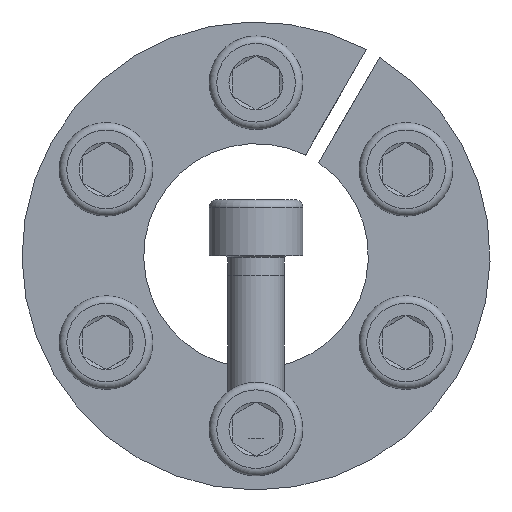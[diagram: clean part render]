
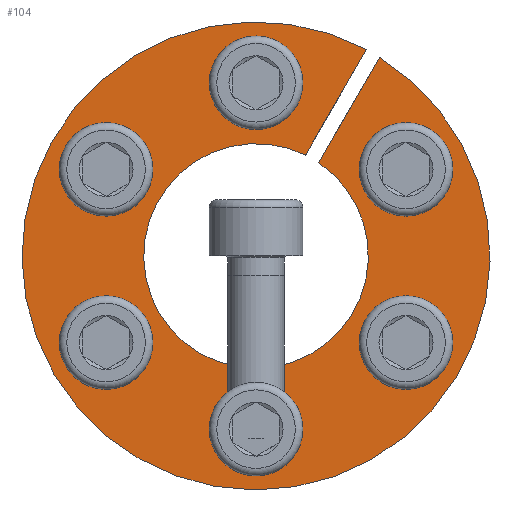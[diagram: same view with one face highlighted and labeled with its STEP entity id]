
A CAD part, front view. The second image highlights one B-rep face of the part: STEP entity #104.
In plain terms, the highlighted planar face has unit normal (0, -1, 0).
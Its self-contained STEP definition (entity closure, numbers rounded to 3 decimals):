
#104 = ADVANCED_FACE( '', ( #217, #218, #219, #220, #221, #222, #223 ), #224, .F. );
#217 = FACE_BOUND( '', #351, .T. );
#218 = FACE_BOUND( '', #352, .T. );
#219 = FACE_BOUND( '', #353, .T. );
#220 = FACE_OUTER_BOUND( '', #354, .T. );
#221 = FACE_BOUND( '', #355, .T. );
#222 = FACE_BOUND( '', #356, .T. );
#223 = FACE_BOUND( '', #357, .T. );
#224 = PLANE( '', #358 );
#351 = EDGE_LOOP( '', ( #580 ) );
#352 = EDGE_LOOP( '', ( #581 ) );
#353 = EDGE_LOOP( '', ( #582 ) );
#354 = EDGE_LOOP( '', ( #583, #584, #585, #586 ) );
#355 = EDGE_LOOP( '', ( #587 ) );
#356 = EDGE_LOOP( '', ( #588 ) );
#357 = EDGE_LOOP( '', ( #589 ) );
#358 = AXIS2_PLACEMENT_3D( '', #590, #591, #592 );
#580 = ORIENTED_EDGE( '', *, *, #720, .T. );
#581 = ORIENTED_EDGE( '', *, *, #746, .T. );
#582 = ORIENTED_EDGE( '', *, *, #735, .T. );
#583 = ORIENTED_EDGE( '', *, *, #754, .F. );
#584 = ORIENTED_EDGE( '', *, *, #759, .F. );
#585 = ORIENTED_EDGE( '', *, *, #711, .T. );
#586 = ORIENTED_EDGE( '', *, *, #764, .F. );
#587 = ORIENTED_EDGE( '', *, *, #743, .T. );
#588 = ORIENTED_EDGE( '', *, *, #723, .T. );
#589 = ORIENTED_EDGE( '', *, *, #717, .T. );
#590 = CARTESIAN_POINT( '', ( 0., 0., 25. ) );
#591 = DIRECTION( '', ( 0., 1., 0. ) );
#592 = DIRECTION( '', ( 0., 0., 1. ) );
#711 = EDGE_CURVE( '', #860, #861, #862, .T. );
#717 = EDGE_CURVE( '', #871, #871, #872, .T. );
#720 = EDGE_CURVE( '', #876, #876, #877, .T. );
#723 = EDGE_CURVE( '', #881, #881, #882, .T. );
#735 = EDGE_CURVE( '', #901, #901, #902, .T. );
#743 = EDGE_CURVE( '', #915, #915, #916, .T. );
#746 = EDGE_CURVE( '', #920, #920, #921, .T. );
#754 = EDGE_CURVE( '', #932, #934, #935, .T. );
#759 = EDGE_CURVE( '', #860, #932, #940, .T. );
#764 = EDGE_CURVE( '', #934, #861, #946, .T. );
#860 = VERTEX_POINT( '', #1133 );
#861 = VERTEX_POINT( '', #1134 );
#862 = CIRCLE( '', #1135, 25. );
#871 = VERTEX_POINT( '', #1146 );
#872 = CIRCLE( '', #1147, 3. );
#876 = VERTEX_POINT( '', #1151 );
#877 = CIRCLE( '', #1152, 3. );
#881 = VERTEX_POINT( '', #1156 );
#882 = CIRCLE( '', #1157, 3. );
#901 = VERTEX_POINT( '', #1178 );
#902 = CIRCLE( '', #1179, 3. );
#915 = VERTEX_POINT( '', #1198 );
#916 = CIRCLE( '', #1199, 3. );
#920 = VERTEX_POINT( '', #1203 );
#921 = CIRCLE( '', #1204, 3. );
#932 = VERTEX_POINT( '', #1217 );
#934 = VERTEX_POINT( '', #1220 );
#935 = CIRCLE( '', #1221, 12. );
#940 = LINE( '', #1229, #1230 );
#946 = LINE( '', #1237, #1238 );
#1133 = CARTESIAN_POINT( '', ( 11.783, 0., 22.049 ) );
#1134 = CARTESIAN_POINT( '', ( 13.203, 0., 21.229 ) );
#1135 = AXIS2_PLACEMENT_3D( '', #1311, #1312, #1313 );
#1146 = CARTESIAN_POINT( '', ( -14.521, 0., 11.848 ) );
#1147 = AXIS2_PLACEMENT_3D( '', #1322, #1323, #1324 );
#1151 = CARTESIAN_POINT( '', ( -17.521, 0., -6.652 ) );
#1152 = AXIS2_PLACEMENT_3D( '', #1328, #1329, #1330 );
#1156 = CARTESIAN_POINT( '', ( -3., 0., -18.5 ) );
#1157 = AXIS2_PLACEMENT_3D( '', #1334, #1335, #1336 );
#1178 = CARTESIAN_POINT( '', ( 3., 0., 18.5 ) );
#1179 = AXIS2_PLACEMENT_3D( '', #1357, #1358, #1359 );
#1198 = CARTESIAN_POINT( '', ( 17.521, 0., 6.652 ) );
#1199 = AXIS2_PLACEMENT_3D( '', #1369, #1370, #1371 );
#1203 = CARTESIAN_POINT( '', ( 14.521, 0., -11.848 ) );
#1204 = AXIS2_PLACEMENT_3D( '', #1375, #1376, #1377 );
#1217 = CARTESIAN_POINT( '', ( 5.276, 0., 10.778 ) );
#1220 = CARTESIAN_POINT( '', ( 6.696, 0., 9.958 ) );
#1221 = AXIS2_PLACEMENT_3D( '', #1387, #1388, #1389 );
#1229 = CARTESIAN_POINT( '', ( 11.79, 0., 22.06 ) );
#1230 = VECTOR( '', #1393, 1000. );
#1237 = CARTESIAN_POINT( '', ( 6.696, 0., 9.958 ) );
#1238 = VECTOR( '', #1398, 1000. );
#1311 = CARTESIAN_POINT( '', ( 0., 0., 0. ) );
#1312 = DIRECTION( '', ( 0., -1., 0. ) );
#1313 = DIRECTION( '', ( 0., 0., -1. ) );
#1322 = CARTESIAN_POINT( '', ( -16.021, 0., 9.25 ) );
#1323 = DIRECTION( '', ( 0., 1., 0. ) );
#1324 = DIRECTION( '', ( 0.5, 0., 0.866 ) );
#1328 = CARTESIAN_POINT( '', ( -16.021, 0., -9.25 ) );
#1329 = DIRECTION( '', ( 0., 1., 0. ) );
#1330 = DIRECTION( '', ( -0.5, 0., 0.866 ) );
#1334 = CARTESIAN_POINT( '', ( 0., 0., -18.5 ) );
#1335 = DIRECTION( '', ( 0., 1., 0. ) );
#1336 = DIRECTION( '', ( -1., 0., 0. ) );
#1357 = CARTESIAN_POINT( '', ( 0., 0., 18.5 ) );
#1358 = DIRECTION( '', ( 0., 1., 0. ) );
#1359 = DIRECTION( '', ( 1., 0., 0. ) );
#1369 = CARTESIAN_POINT( '', ( 16.021, 0., 9.25 ) );
#1370 = DIRECTION( '', ( 0., 1., 0. ) );
#1371 = DIRECTION( '', ( 0.5, 0., -0.866 ) );
#1375 = CARTESIAN_POINT( '', ( 16.021, 0., -9.25 ) );
#1376 = DIRECTION( '', ( 0., 1., 0. ) );
#1377 = DIRECTION( '', ( -0.5, 0., -0.866 ) );
#1387 = CARTESIAN_POINT( '', ( 0., 0., 0. ) );
#1388 = DIRECTION( '', ( 0., -1., 0. ) );
#1389 = DIRECTION( '', ( 0., 0., -1. ) );
#1393 = DIRECTION( '', ( -0.5, 0., -0.866 ) );
#1398 = DIRECTION( '', ( 0.5, 0., 0.866 ) );
